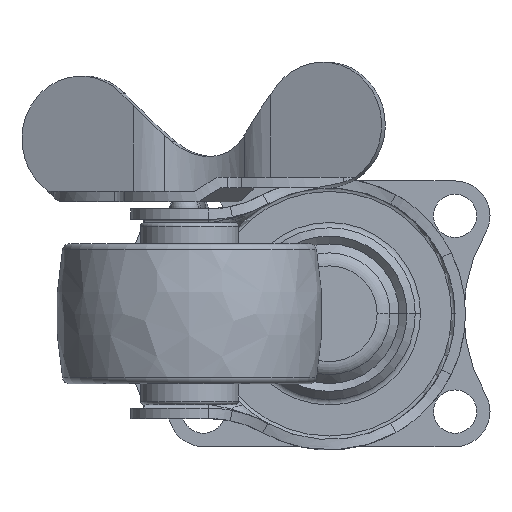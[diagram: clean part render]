
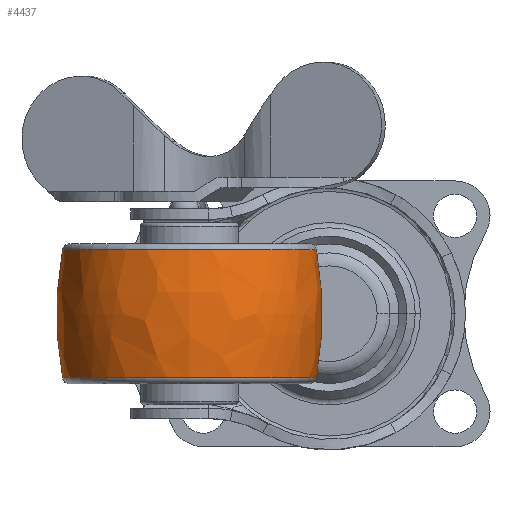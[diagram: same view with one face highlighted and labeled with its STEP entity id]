
A CAD part, front view. The second image highlights one B-rep face of the part: STEP entity #4437.
In plain terms, the highlighted free-form (B-spline) face has degree [3, 3] with [7, 4] control points.
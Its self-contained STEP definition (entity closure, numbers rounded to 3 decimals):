
#3953=CARTESIAN_POINT('',(0.,-31.,0.));
#3954=DIRECTION('',(0.,0.,1.));
#3955=DIRECTION('',(0.184,0.983,0.));
#3956=AXIS2_PLACEMENT_3D('',#3953,#3954,#3955);
#3958=CARTESIAN_POINT('',(0.,31.,0.));
#3959=DIRECTION('',(0.,0.,-1.));
#3960=DIRECTION('',(0.184,-0.983,0.));
#3961=AXIS2_PLACEMENT_3D('',#3958,#3959,#3960);
#3963=CARTESIAN_POINT('',(9.184,0.,0.));
#3964=DIRECTION('',(-1.,0.,0.));
#3965=DIRECTION('',(0.,1.,0.));
#3966=AXIS2_PLACEMENT_3D('',#3963,#3964,#3965);
#3988=CARTESIAN_POINT('',(-9.184,0.,0.));
#3989=DIRECTION('',(-1.,0.,0.));
#3990=DIRECTION('',(0.,1.,0.));
#3991=AXIS2_PLACEMENT_3D('',#3988,#3989,#3990);
#4140=CARTESIAN_POINT('',(9.184,18.149,0.));
#4142=VERTEX_POINT('',#4140);
#4143=CARTESIAN_POINT('',(-9.184,18.149,0.));
#4144=VERTEX_POINT('',#4143);
#4176=CARTESIAN_POINT('',(9.184,-18.149,0.));
#4178=VERTEX_POINT('',#4176);
#4179=CARTESIAN_POINT('',(-9.184,-18.149,0.));
#4180=VERTEX_POINT('',#4179);
#4399=CARTESIAN_POINT('',(-9.547,-18.044,
1.135));
#4400=CARTESIAN_POINT('',(-3.222,-19.272,
1.213));
#4401=CARTESIAN_POINT('',(3.222,-19.272,1.213));
#4402=CARTESIAN_POINT('',(9.547,-18.044,1.135));
#4403=CARTESIAN_POINT('',(-9.547,-18.743,
-9.969));
#4404=CARTESIAN_POINT('',(-3.222,-20.018,
-10.648));
#4405=CARTESIAN_POINT('',(3.222,-20.018,
-10.648));
#4406=CARTESIAN_POINT('',(9.547,-18.743,
-9.969));
#4407=CARTESIAN_POINT('',(-9.547,-11.127,
-18.08));
#4408=CARTESIAN_POINT('',(-3.222,-11.884,
-19.31));
#4409=CARTESIAN_POINT('',(3.222,-11.884,
-19.31));
#4410=CARTESIAN_POINT('',(9.547,-11.127,
-18.08));
#4411=CARTESIAN_POINT('',(-9.547,0.,-18.08));
#4412=CARTESIAN_POINT('',(-3.222,0.,-19.31));
#4413=CARTESIAN_POINT('',(3.222,0.,-19.31));
#4414=CARTESIAN_POINT('',(9.547,0.,
-18.08));
#4415=CARTESIAN_POINT('',(-9.547,11.127,
-18.08));
#4416=CARTESIAN_POINT('',(-3.222,11.884,
-19.31));
#4417=CARTESIAN_POINT('',(3.222,11.884,-19.31));
#4418=CARTESIAN_POINT('',(9.547,11.127,-18.08));
#4419=CARTESIAN_POINT('',(-9.547,18.743,
-9.969));
#4420=CARTESIAN_POINT('',(-3.222,20.018,
-10.648));
#4421=CARTESIAN_POINT('',(3.222,20.018,-10.648));
#4422=CARTESIAN_POINT('',(9.547,18.743,-9.969));
#4423=CARTESIAN_POINT('',(-9.547,18.044,1.135));
#4424=CARTESIAN_POINT('',(-3.222,19.272,1.213));
#4425=CARTESIAN_POINT('',(3.222,19.272,1.213));
#4426=CARTESIAN_POINT('',(9.547,18.044,1.135));
#4427=(BOUNDED_SURFACE()B_SPLINE_SURFACE(3,3,((#4399,#4400,#4401,#4402),(#4403,
#4404,#4405,#4406),(#4407,#4408,#4409,#4410),(#4411,#4412,#4413,#4414),(#4415,
#4416,#4417,#4418),(#4419,#4420,#4421,#4422),(#4423,#4424,#4425,#4426)),
.UNSPECIFIED.,.F.,.F.,.F.)B_SPLINE_SURFACE_WITH_KNOTS((4,3,4),(4,4),(0.,1.,
2.),(0.,1.),.UNSPECIFIED.)GEOMETRIC_REPRESENTATION_ITEM()RATIONAL_B_SPLINE_SURFACE(((1.198,1.184,1.184,1.198),(
0.946,0.935,0.935,0.946),(
0.946,0.935,0.935,0.946),(
1.198,1.184,1.184,1.198),(
0.946,0.935,0.935,0.946),(
0.946,0.935,0.935,0.946),(
1.198,1.184,1.184,1.198)))REPRESENTATION_ITEM('')SURFACE());
#4429=ORIENTED_EDGE('',*,*,#4428,.T.);
#4431=ORIENTED_EDGE('',*,*,#4430,.T.);
#4433=ORIENTED_EDGE('',*,*,#4432,.F.);
#4434=ORIENTED_EDGE('',*,*,#4392,.F.);
#4435=EDGE_LOOP('',(#4429,#4431,#4433,#4434));
#4436=FACE_OUTER_BOUND('',#4435,.F.);
#3957=CIRCLE('',#3956,50.);
#3962=CIRCLE('',#3961,50.);
#3967=CIRCLE('',#3966,18.149);
#3992=CIRCLE('',#3991,18.149);
#4392=EDGE_CURVE('',#4142,#4178,#3967,.T.);
#4428=EDGE_CURVE('',#4142,#4144,#3957,.T.);
#4430=EDGE_CURVE('',#4144,#4180,#3992,.T.);
#4432=EDGE_CURVE('',#4178,#4180,#3962,.T.);
#4437=ADVANCED_FACE('',(#4436),#4427,.T.);
